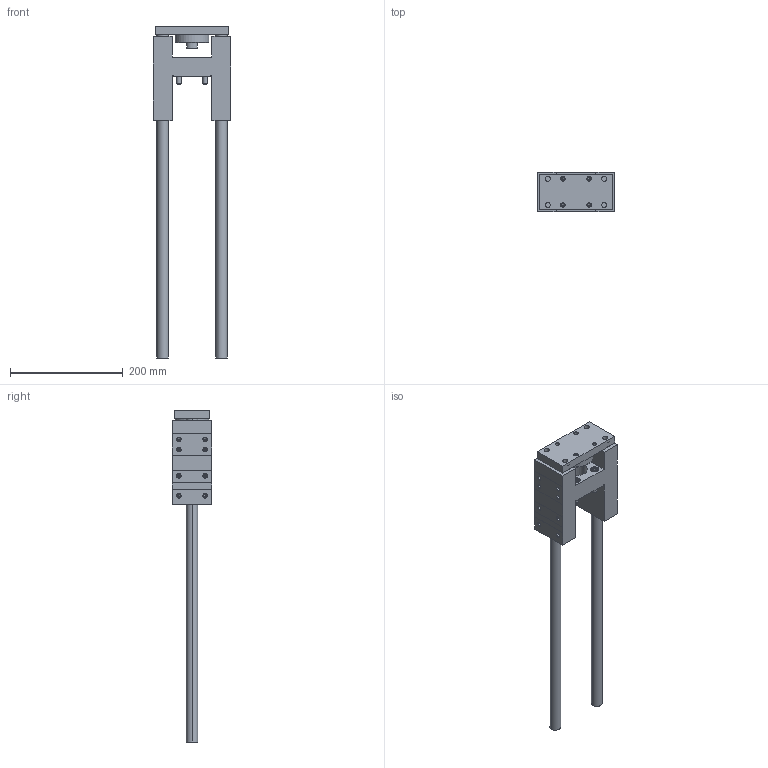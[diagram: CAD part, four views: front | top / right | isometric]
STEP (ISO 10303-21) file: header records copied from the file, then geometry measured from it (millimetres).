
FILE_DESCRIPTION (( 'STEP AP203' ), '1' );
FILE_NAME ('GB50-400.STEP', '2020-04-24T13:16:46', ( '' ), ( '' ), 'SwSTEP 2.0', 'SolidWorks 2019', '' );
FILE_SCHEMA (( 'CONFIG_CONTROL_DESIGN' ));
Length unit declared in the file: millimetre
Products named in the file (1): GB50-400
Bounding box: 137 x 70 x 588 mm (x, y, z)
Volume: 1228286.7 mm3; surface area: 218750 mm2
Topology: 6 solids, 6 shells, 377 faces, 852 edges, 480 vertices
Faces by surface type: cone 154, plane 117, cylinder 106
Entity records: 10863 total; most frequent: CARTESIAN_POINT 2350, DIRECTION 1902, ORIENTED_EDGE 1624, EDGE_CURVE 812, AXIS2_PLACEMENT_3D 744, VERTEX_POINT 480, EDGE_LOOP 440, LINE 414
